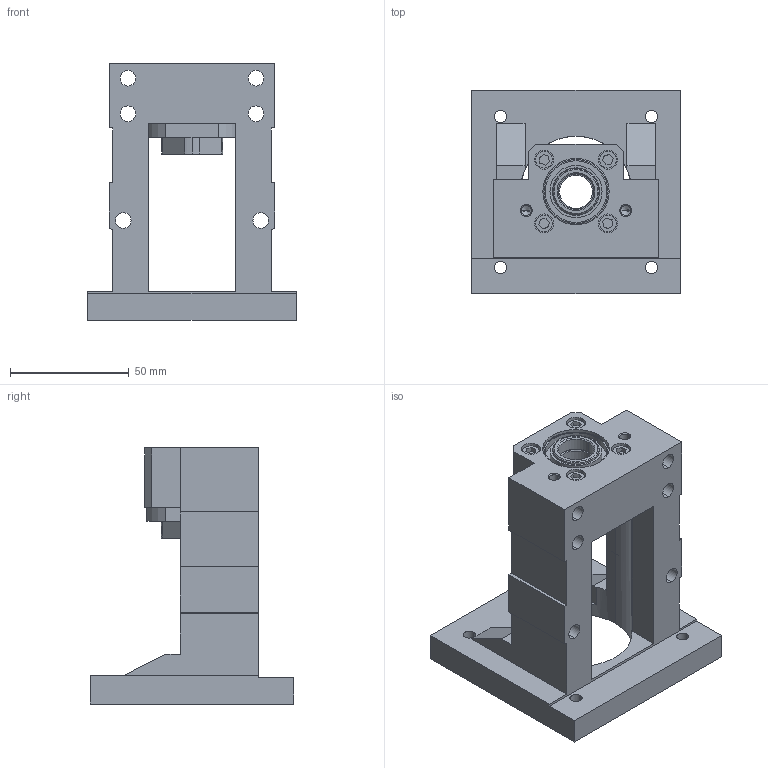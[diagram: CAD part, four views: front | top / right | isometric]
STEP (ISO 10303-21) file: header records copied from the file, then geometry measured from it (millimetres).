
FILE_DESCRIPTION (( 'STEP AP203' ), '1' );
FILE_NAME ('MBCB15-E.STEP', '2023-01-12T00:38:06', ( '' ), ( '' ), 'SwSTEP 2.0', 'SolidWorks 2018', '' );
FILE_SCHEMA (( 'CONFIG_CONTROL_DESIGN' ));
Length unit declared in the file: millimetre
Products named in the file (12): MBCB15-E_網路下載圖; 7002; 7002外圈; MBC15; BK15套筒; BK系列密封圈_BK15密封圈; M15鎖固螺帽_M15; 螺絲_M4; 7002保持器; MBCB15-E; 7002內圈; 7002鋼珠4.7625
Assembly tree (28 placements, depth 3):
  MBCB15-E
    MBCB15-E_網路下載圖
    7002  x2
      7002外圈
      7002保持器
      7002內圈
      7002鋼珠4.7625
    MBC15
    BK15套筒  x2
    BK系列密封圈_BK15密封圈  x2
    M15鎖固螺帽_M15
    螺絲_M4  x4
Bounding box: 88 x 86 x 108 mm (x, y, z)
Volume: 178797.6 mm3; surface area: 73564.5 mm2
Topology: 41 solids, 42 shells, 571 faces, 1404 edges, 884 vertices
Faces by surface type: cylinder 230, plane 149, torus 104, sphere 48, cone 40
Entity records: 14116 total; most frequent: CARTESIAN_POINT 3578, DIRECTION 1978, ORIENTED_EDGE 1724, EDGE_CURVE 862, AXIS2_PLACEMENT_3D 792, VERTEX_POINT 542, EDGE_LOOP 460, CIRCLE 404
